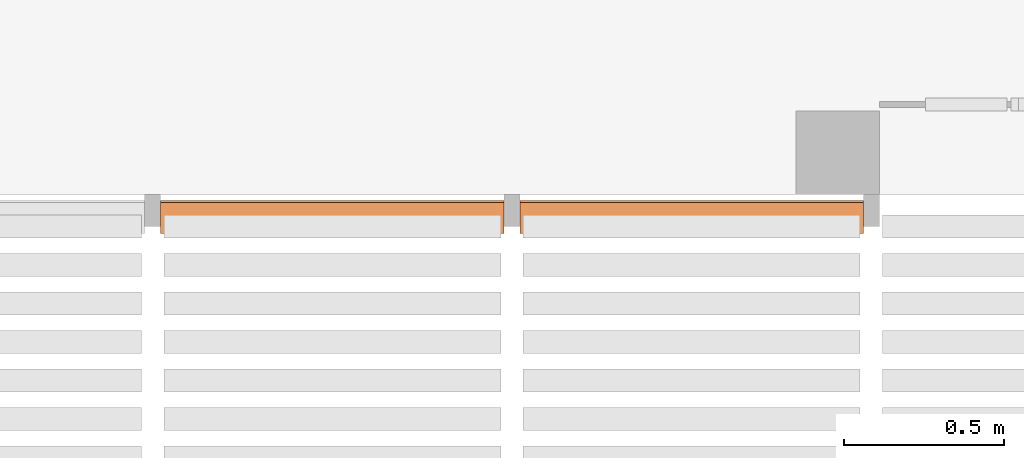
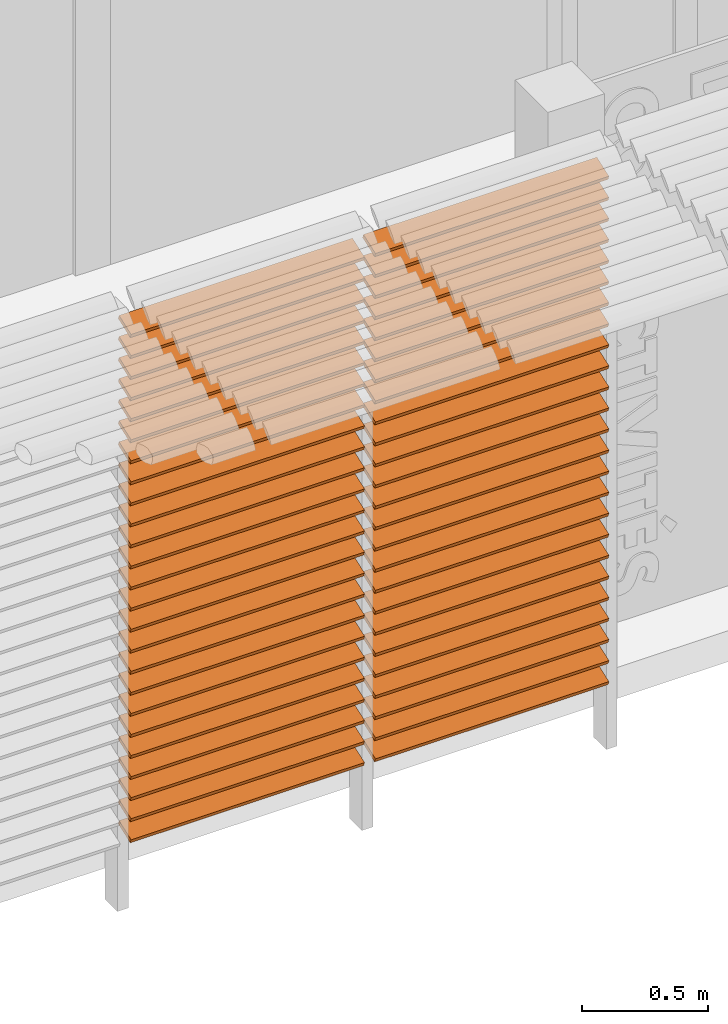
# One storey, part 57 of 64: 2 proxies.
"""IFC2X3 building model written with IfcOpenShell, lengths in metres."""

from ifc_helpers import new_model, entity, si_unit, converted_unit, derived_unit, direction, frame, frame_2d, origin, place, context, subcontext, project, spatial, rectangle, extrude, source, transform, mapped, material, type_object, type_shapes, element, save


model = new_model("IFC2X3")

# Units and contexts
model_context = context("Model", 3, precision=1e-05, world=origin(), true_north=direction((6.123031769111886e-17, 1.0)))
body_context = subcontext(model_context, "Body", "Model", "MODEL_VIEW")
ifc_project = project(units=[si_unit("LENGTHUNIT", "METRE"), si_unit("AREAUNIT", "SQUARE_METRE"), si_unit("VOLUMEUNIT", "CUBIC_METRE"), converted_unit("PLANEANGLEUNIT", "DEGREE", entity("IfcRatioMeasure", 0.017453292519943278), si_unit("PLANEANGLEUNIT", "RADIAN"), dimensions=[0, 0, 0, 0, 0, 0, 0]), si_unit("MASSUNIT", "GRAM", prefix="KILO"), derived_unit("MASSDENSITYUNIT", [(si_unit("MASSUNIT", "GRAM", prefix="KILO"), 1), (si_unit("LENGTHUNIT", "METRE"), -3)]), derived_unit("MOMENTOFINERTIAUNIT", [(si_unit("LENGTHUNIT", "METRE"), 4)]), si_unit("TIMEUNIT", "SECOND"), si_unit("FREQUENCYUNIT", "HERTZ"), si_unit("THERMODYNAMICTEMPERATUREUNIT", "DEGREE_CELSIUS"), derived_unit("THERMALTRANSMITTANCEUNIT", [(si_unit("MASSUNIT", "GRAM", prefix="KILO"), 1), (si_unit("THERMODYNAMICTEMPERATUREUNIT", "KELVIN"), -1), (si_unit("TIMEUNIT", "SECOND"), -3)]), derived_unit("THERMALCONDUCTANCEUNIT", [(si_unit("MASSUNIT", "GRAM", prefix="KILO"), 1), (si_unit("LENGTHUNIT", "METRE"), 1), (si_unit("THERMODYNAMICTEMPERATUREUNIT", "KELVIN"), -1), (si_unit("TIMEUNIT", "SECOND"), -3)]), derived_unit("VOLUMETRICFLOWRATEUNIT", [(si_unit("LENGTHUNIT", "METRE"), 3), (si_unit("TIMEUNIT", "SECOND"), -1)]), derived_unit("MASSFLOWRATEUNIT", [(si_unit("MASSUNIT", "GRAM", prefix="KILO"), 1), (si_unit("TIMEUNIT", "SECOND"), -1)]), derived_unit("ROTATIONALFREQUENCYUNIT", [(si_unit("TIMEUNIT", "SECOND"), -1)]), si_unit("ELECTRICCURRENTUNIT", "AMPERE"), si_unit("ELECTRICVOLTAGEUNIT", "VOLT"), si_unit("POWERUNIT", "WATT"), si_unit("FORCEUNIT", "NEWTON", prefix="KILO"), si_unit("ILLUMINANCEUNIT", "LUX"), si_unit("LUMINOUSFLUXUNIT", "LUMEN"), si_unit("LUMINOUSINTENSITYUNIT", "CANDELA"), derived_unit("USERDEFINED", [(si_unit("MASSUNIT", "GRAM", prefix="KILO"), -1), (si_unit("LENGTHUNIT", "METRE"), -2), (si_unit("TIMEUNIT", "SECOND"), 3), (si_unit("LUMINOUSFLUXUNIT", "LUMEN"), 1)]), derived_unit("USERDEFINED", [(si_unit("MASSUNIT", "GRAM", prefix="KILO"), 1), (si_unit("LENGTHUNIT", "METRE"), 3), (si_unit("TIMEUNIT", "SECOND"), -3), (si_unit("ELECTRICCURRENTUNIT", "AMPERE"), -2)]), derived_unit("USERDEFINED", [(si_unit("LENGTHUNIT", "METRE"), 2), (si_unit("TIMEUNIT", "SECOND"), -2)]), derived_unit("SOUNDPOWERUNIT", [(si_unit("MASSUNIT", "GRAM", prefix="KILO"), 1), (si_unit("LENGTHUNIT", "METRE"), 2), (si_unit("TIMEUNIT", "SECOND"), -3)]), derived_unit("SOUNDPRESSUREUNIT", [(si_unit("MASSUNIT", "GRAM", prefix="KILO"), 1), (si_unit("LENGTHUNIT", "METRE"), -1), (si_unit("TIMEUNIT", "SECOND"), -2)]), derived_unit("LINEARVELOCITYUNIT", [(si_unit("LENGTHUNIT", "METRE"), 1), (si_unit("TIMEUNIT", "SECOND"), -1)]), si_unit("PRESSUREUNIT", "PASCAL"), derived_unit("USERDEFINED", [(si_unit("LENGTHUNIT", "METRE"), -2), (si_unit("MASSUNIT", "GRAM", prefix="KILO"), 1), (si_unit("TIMEUNIT", "SECOND"), -2)]), derived_unit("LINEARFORCEUNIT", [(si_unit("MASSUNIT", "GRAM", prefix="KILO"), 1), (si_unit("LENGTHUNIT", "METRE"), 1), (si_unit("TIMEUNIT", "SECOND"), -2), (si_unit("LENGTHUNIT", "METRE"), -1)]), derived_unit("PLANARFORCEUNIT", [(si_unit("MASSUNIT", "GRAM", prefix="KILO"), 1), (si_unit("LENGTHUNIT", "METRE"), 1), (si_unit("TIMEUNIT", "SECOND"), -2), (si_unit("LENGTHUNIT", "METRE"), -2)]), derived_unit("SPECIFICHEATCAPACITYUNIT", [(si_unit("LENGTHUNIT", "METRE"), 2), (si_unit("TIMEUNIT", "SECOND"), -2), (si_unit("THERMODYNAMICTEMPERATUREUNIT", "KELVIN"), -1)]), derived_unit("VAPORPERMEABILITYUNIT", [(si_unit("TIMEUNIT", "SECOND"), 1), (si_unit("LENGTHUNIT", "METRE"), -1)]), derived_unit("DYNAMICVISCOSITYUNIT", [(si_unit("MASSUNIT", "GRAM", prefix="KILO"), 1), (si_unit("LENGTHUNIT", "METRE"), -1), (si_unit("TIMEUNIT", "SECOND"), -1)]), derived_unit("THERMALEXPANSIONCOEFFICIENTUNIT", [(si_unit("THERMODYNAMICTEMPERATUREUNIT", "KELVIN"), -1)])], contexts=[model_context])

# Site, building, storey
site_placement = place(None, origin())
site = spatial("IfcSite", under=ifc_project, at=site_placement, Name="Default", CompositionType="ELEMENT")
building_placement = place(site_placement, origin())
building = spatial("IfcBuilding", under=site, at=building_placement, CompositionType="ELEMENT")
storey_placement = place(building_placement, origin())
storey = spatial("IfcBuildingStorey", under=building, at=storey_placement, Name="REZ-DE-CHAUSSÉE", CompositionType="ELEMENT", Elevation=0.0)

# Proxies
ifc_material = material(Name="Bois - Chêne clair")
building_element_proxy_type_1 = type_object("IfcBuildingElementProxyType", Name="Symb-0003", PredefinedType="NOTDEFINED", material=ifc_material)
shared_shape_1 = source(origin(), body_context, "Body", "SweptSolid", [
    extrude(rectangle(XDim=0.020000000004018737, YDim=0.10200000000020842, at=frame_2d((-2.5326962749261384e-16, 9.280770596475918e-17), x_axis=(0.0, 1.0))), frame((118.73074673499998, 4.09720948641, 2.498999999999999), z_axis=(1.0, 0.0, 0.0), x_axis=(0.0, 0.9396926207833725, 0.34202014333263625)), (0.0, 0.0, 1.0), 1.0699999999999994),
    extrude(rectangle(XDim=0.02000000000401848, YDim=0.10200000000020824, at=frame_2d((-2.6020852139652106e-16, 9.194034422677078e-17), x_axis=(0.0, 1.0))), frame((118.73074673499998, 4.09720948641, 2.397), z_axis=(1.0, 0.0, 0.0), x_axis=(0.0, 0.9396926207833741, 0.3420201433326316)), (0.0, 0.0, 1.0), 1.0699999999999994),
    extrude(rectangle(XDim=0.020000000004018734, YDim=0.10200000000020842, at=frame_2d((-3.0184188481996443e-16, -3.382710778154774e-17), x_axis=(0.0, 1.0))), frame((118.73074673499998, 4.09720948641, 2.295), z_axis=(1.0, 0.0, 0.0), x_axis=(0.0, 0.9396926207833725, 0.34202014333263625)), (0.0, 0.0, 1.0), 1.0699999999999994),
    extrude(rectangle(XDim=0.020000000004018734, YDim=0.10200000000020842, at=frame_2d((-3.0184188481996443e-16, -3.382710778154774e-17), x_axis=(0.0, 1.0))), frame((118.73074673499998, 4.09720948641, 2.193), z_axis=(1.0, 0.0, 0.0), x_axis=(0.0, 0.9396926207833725, 0.34202014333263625)), (0.0, 0.0, 1.0), 1.0699999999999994),
    extrude(rectangle(XDim=0.020000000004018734, YDim=0.10200000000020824, at=frame_2d((-2.1163626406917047e-16, 2.211772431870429e-16), x_axis=(0.0, 1.0))), frame((118.73074673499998, 4.09720948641, 2.0909999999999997), z_axis=(1.0, 0.0, 0.0), x_axis=(0.0, 0.9396926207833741, 0.3420201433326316)), (0.0, 0.0, 1.0), 1.0699999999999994),
    extrude(rectangle(XDim=0.020000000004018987, YDim=0.10200000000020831, at=frame_2d((-3.0184188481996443e-16, -3.382710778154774e-17), x_axis=(0.0, 1.0))), frame((118.73074673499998, 4.09720948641, 1.9889999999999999), z_axis=(1.0, 0.0, 0.0), x_axis=(0.0, 0.9396926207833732, 0.3420201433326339)), (0.0, 0.0, 1.0), 1.0699999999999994),
    extrude(rectangle(XDim=0.020000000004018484, YDim=0.10200000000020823, at=frame_2d((-1.6306400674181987e-16, 3.478120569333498e-16), x_axis=(0.0, 1.0))), frame((118.73074673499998, 4.09720948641, 1.8869999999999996), z_axis=(1.0, 0.0, 0.0), x_axis=(0.0, 0.9396926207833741, 0.3420201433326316)), (0.0, 0.0, 1.0), 1.0699999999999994),
    extrude(rectangle(XDim=0.020000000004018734, YDim=0.10200000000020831, at=frame_2d((-2.5673907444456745e-16, 9.280770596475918e-17), x_axis=(0.0, 1.0))), frame((118.73074673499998, 4.09720948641, 1.7850000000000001), z_axis=(1.0, 0.0, 0.0), x_axis=(0.0, 0.9396926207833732, 0.3420201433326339)), (0.0, 0.0, 1.0), 1.0699999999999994),
    extrude(rectangle(XDim=0.020000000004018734, YDim=0.10200000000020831, at=frame_2d((-1.5959455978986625e-16, 3.469446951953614e-16), x_axis=(0.0, 1.0))), frame((118.73074673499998, 4.09720948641, 1.6829999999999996), z_axis=(1.0, 0.0, 0.0), x_axis=(0.0, 0.9396926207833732, 0.3420201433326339)), (0.0, 0.0, 1.0), 1.0699999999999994),
    extrude(rectangle(XDim=0.02000000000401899, YDim=0.10200000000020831, at=frame_2d((-2.0816681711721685e-16, 2.203098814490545e-16), x_axis=(0.0, 1.0))), frame((118.73074673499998, 4.09720948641, 1.5809999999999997), z_axis=(1.0, 0.0, 0.0), x_axis=(0.0, 0.9396926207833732, 0.3420201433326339)), (0.0, 0.0, 1.0), 1.0699999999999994),
    extrude(rectangle(XDim=0.020000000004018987, YDim=0.10200000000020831, at=frame_2d((-3.0184188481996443e-16, -3.382710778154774e-17), x_axis=(0.0, 1.0))), frame((118.73074673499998, 4.09720948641, 1.479), z_axis=(1.0, 0.0, 0.0), x_axis=(0.0, 0.9396926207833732, 0.3420201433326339)), (0.0, 0.0, 1.0), 1.0699999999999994),
    extrude(rectangle(XDim=0.02000000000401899, YDim=0.10200000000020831, at=frame_2d((-2.5673907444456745e-16, 9.280770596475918e-17), x_axis=(0.0, 1.0))), frame((118.73074673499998, 4.09720948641, 1.3769999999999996), z_axis=(1.0, 0.0, 0.0), x_axis=(0.0, 0.9396926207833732, 0.3420201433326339)), (0.0, 0.0, 1.0), 1.0699999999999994),
    extrude(rectangle(XDim=0.02000000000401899, YDim=0.10200000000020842, at=frame_2d((-2.5326962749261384e-16, 9.280770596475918e-17), x_axis=(0.0, 1.0))), frame((118.73074673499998, 4.09720948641, 1.275), z_axis=(1.0, 0.0, 0.0), x_axis=(0.0, 0.9396926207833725, 0.34202014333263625)), (0.0, 0.0, 1.0), 1.0699999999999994),
    extrude(rectangle(XDim=0.02000000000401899, YDim=0.10200000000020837, at=frame_2d((-2.740863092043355e-16, 2.862293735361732e-17), x_axis=(0.0, 1.0))), frame((118.73074673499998, 4.09720948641, 1.1729999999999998), z_axis=(1.0, 0.0, 0.0), x_axis=(0.0, 0.9396926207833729, 0.3420201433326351)), (0.0, 0.0, 1.0), 1.0699999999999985),
    extrude(rectangle(XDim=0.020000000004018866, YDim=0.10200000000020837, at=frame_2d((-2.5326962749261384e-16, 9.280770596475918e-17), x_axis=(0.0, 1.0))), frame((118.73074673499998, 4.09720948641, 1.071), z_axis=(1.0, 0.0, 0.0), x_axis=(0.0, 0.9396926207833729, 0.3420201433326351)), (0.0, 0.0, 1.0), 1.0699999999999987),
    extrude(rectangle(XDim=0.01999999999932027, YDim=0.10199999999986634, at=frame_2d((-2.255140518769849e-16, 1.5612511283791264e-16), x_axis=(0.0, 1.0))), frame((118.73074673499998, 4.09720948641, 0.9689999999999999), z_axis=(1.0, 0.0, 0.0), x_axis=(0.0, 0.9396926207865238, 0.34202014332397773)), (0.0, 0.0, 1.0), 1.0699999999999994),
    extrude(rectangle(XDim=0.019999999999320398, YDim=0.10199999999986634, at=frame_2d((-2.255140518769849e-16, 1.5612511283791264e-16), x_axis=(0.0, 1.0))), frame((118.73074673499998, 4.09720948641, 0.8669999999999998), z_axis=(1.0, 0.0, 0.0), x_axis=(0.0, 0.9396926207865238, 0.34202014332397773)), (0.0, 0.0, 1.0), 1.0699999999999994),
    extrude(rectangle(XDim=0.019999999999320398, YDim=0.10199999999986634, at=frame_2d((-2.8102520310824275e-16, 2.949029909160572e-17), x_axis=(0.0, 1.0))), frame((118.73074673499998, 4.09720948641, 0.765), z_axis=(1.0, 0.0, 0.0), x_axis=(0.0, 0.9396926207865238, 0.34202014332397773)), (0.0, 0.0, 1.0), 1.0699999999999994),
    extrude(rectangle(XDim=0.019999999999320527, YDim=0.10199999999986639, at=frame_2d((-2.5326962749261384e-16, 9.194034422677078e-17), x_axis=(0.0, 1.0))), frame((118.73074673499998, 4.09720948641, 0.6629999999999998), z_axis=(1.0, 0.0, 0.0), x_axis=(0.0, 0.9396926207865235, 0.34202014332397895)), (0.0, 0.0, 1.0), 1.0699999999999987),
    extrude(rectangle(XDim=0.019999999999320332, YDim=0.10199999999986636, at=frame_2d((-2.5326962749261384e-16, 9.280770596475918e-17), x_axis=(0.0, 1.0))), frame((118.73074673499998, 4.09720948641, 0.5609999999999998), z_axis=(1.0, 0.0, 0.0), x_axis=(0.0, 0.9396926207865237, 0.34202014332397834)), (0.0, 0.0, 1.0), 1.0699999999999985),
    extrude(rectangle(XDim=0.01999999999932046, YDim=0.10199999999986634, at=frame_2d((-2.5326962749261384e-16, 9.367506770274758e-17), x_axis=(0.0, 1.0))), frame((118.73074673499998, 4.09720948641, 0.4589999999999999), z_axis=(1.0, 0.0, 0.0), x_axis=(0.0, 0.9396926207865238, 0.34202014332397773)), (0.0, 0.0, 1.0), 1.0699999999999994),
    extrude(rectangle(XDim=0.01999999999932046, YDim=0.10199999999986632, at=frame_2d((-2.42861286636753e-16, 1.240327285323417e-16), x_axis=(0.0, 1.0))), frame((118.73074673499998, 4.09720948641, 0.3569999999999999), z_axis=(1.0, 0.0, 0.0), x_axis=(0.0, 0.939692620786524, 0.3420201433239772)), (0.0, 0.0, 1.0), 1.0699999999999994),
    extrude(rectangle(XDim=0.019999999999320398, YDim=0.10199999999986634, at=frame_2d((-2.636779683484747e-16, 7.546047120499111e-17), x_axis=(0.0, 1.0))), frame((118.73074673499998, 4.09720948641, 0.2549999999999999), z_axis=(1.0, 0.0, 0.0), x_axis=(0.0, 0.9396926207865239, 0.34202014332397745)), (0.0, 0.0, 1.0), 1.0699999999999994),
    extrude(rectangle(XDim=0.019999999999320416, YDim=0.10199999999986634, at=frame_2d((-2.636779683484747e-16, 7.546047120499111e-17), x_axis=(0.0, 1.0))), frame((118.73074673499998, 4.09720948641, 0.1529999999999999), z_axis=(1.0, 0.0, 0.0), x_axis=(0.0, 0.9396926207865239, 0.34202014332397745)), (0.0, 0.0, 1.0), 1.0699999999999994),
    extrude(rectangle(XDim=0.01999999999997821, YDim=0.10199999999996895, at=frame_2d((-2.5326962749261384e-16, 9.80118763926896e-17), x_axis=(0.0, 1.0))), frame((118.73074673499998, 4.09720948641, 0.050999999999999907), z_axis=(1.0, 0.0, 0.0), x_axis=(0.0, 0.9396926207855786, 0.34202014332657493)), (0.0, 0.0, 1.0), 1.0699999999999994),
])
type_shapes(building_element_proxy_type_1, [shared_shape_1])
proxy_1_placement = place(storey_placement, origin())
element("IfcBuildingElementProxy", 1, at=proxy_1_placement, inside=storey, type_object=building_element_proxy_type_1, material=ifc_material, Name="Symb-0003 62445:Symb-0003 62445", ObjectType="Symb-0003 62445:Symb-0003 62445", context=body_context, shape_type="MappedRepresentation", body=[
    mapped(shared_shape_1, transform((0.0, 0.0, 0.0), scale=1.0)),
])
building_element_proxy_type_2 = type_object("IfcBuildingElementProxyType", Name="Symb-0003", PredefinedType="NOTDEFINED", material=ifc_material)
shared_shape_2 = source(origin(), body_context, "Body", "SweptSolid", [
    extrude(rectangle(XDim=0.020000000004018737, YDim=0.10200000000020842, at=frame_2d((-2.5326962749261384e-16, 9.280770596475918e-17), x_axis=(0.0, 1.0))), frame((119.85074673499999, 4.09720948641, 2.498999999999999), z_axis=(1.0, 0.0, 0.0), x_axis=(0.0, 0.9396926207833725, 0.34202014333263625)), (0.0, 0.0, 1.0), 1.0699999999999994),
    extrude(rectangle(XDim=0.02000000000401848, YDim=0.10200000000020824, at=frame_2d((-2.6020852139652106e-16, 9.194034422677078e-17), x_axis=(0.0, 1.0))), frame((119.85074673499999, 4.09720948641, 2.397), z_axis=(1.0, 0.0, 0.0), x_axis=(0.0, 0.9396926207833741, 0.3420201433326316)), (0.0, 0.0, 1.0), 1.0699999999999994),
    extrude(rectangle(XDim=0.020000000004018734, YDim=0.10200000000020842, at=frame_2d((-3.0184188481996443e-16, -3.382710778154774e-17), x_axis=(0.0, 1.0))), frame((119.85074673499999, 4.09720948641, 2.295), z_axis=(1.0, 0.0, 0.0), x_axis=(0.0, 0.9396926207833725, 0.34202014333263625)), (0.0, 0.0, 1.0), 1.0699999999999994),
    extrude(rectangle(XDim=0.020000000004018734, YDim=0.10200000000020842, at=frame_2d((-3.0184188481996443e-16, -3.382710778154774e-17), x_axis=(0.0, 1.0))), frame((119.85074673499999, 4.09720948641, 2.193), z_axis=(1.0, 0.0, 0.0), x_axis=(0.0, 0.9396926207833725, 0.34202014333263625)), (0.0, 0.0, 1.0), 1.0699999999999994),
    extrude(rectangle(XDim=0.020000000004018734, YDim=0.10200000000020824, at=frame_2d((-2.1163626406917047e-16, 2.211772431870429e-16), x_axis=(0.0, 1.0))), frame((119.85074673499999, 4.09720948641, 2.0909999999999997), z_axis=(1.0, 0.0, 0.0), x_axis=(0.0, 0.9396926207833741, 0.3420201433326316)), (0.0, 0.0, 1.0), 1.0699999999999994),
    extrude(rectangle(XDim=0.020000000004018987, YDim=0.10200000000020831, at=frame_2d((-3.0184188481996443e-16, -3.382710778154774e-17), x_axis=(0.0, 1.0))), frame((119.85074673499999, 4.09720948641, 1.9889999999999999), z_axis=(1.0, 0.0, 0.0), x_axis=(0.0, 0.9396926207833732, 0.3420201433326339)), (0.0, 0.0, 1.0), 1.0699999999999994),
    extrude(rectangle(XDim=0.020000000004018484, YDim=0.10200000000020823, at=frame_2d((-1.6306400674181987e-16, 3.478120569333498e-16), x_axis=(0.0, 1.0))), frame((119.85074673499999, 4.09720948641, 1.8869999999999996), z_axis=(1.0, 0.0, 0.0), x_axis=(0.0, 0.9396926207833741, 0.3420201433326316)), (0.0, 0.0, 1.0), 1.0699999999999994),
    extrude(rectangle(XDim=0.020000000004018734, YDim=0.10200000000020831, at=frame_2d((-2.5673907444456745e-16, 9.280770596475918e-17), x_axis=(0.0, 1.0))), frame((119.85074673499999, 4.09720948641, 1.7850000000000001), z_axis=(1.0, 0.0, 0.0), x_axis=(0.0, 0.9396926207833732, 0.3420201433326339)), (0.0, 0.0, 1.0), 1.0699999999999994),
    extrude(rectangle(XDim=0.020000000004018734, YDim=0.10200000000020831, at=frame_2d((-1.5959455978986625e-16, 3.469446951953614e-16), x_axis=(0.0, 1.0))), frame((119.85074673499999, 4.09720948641, 1.6829999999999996), z_axis=(1.0, 0.0, 0.0), x_axis=(0.0, 0.9396926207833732, 0.3420201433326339)), (0.0, 0.0, 1.0), 1.0699999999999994),
    extrude(rectangle(XDim=0.02000000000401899, YDim=0.10200000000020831, at=frame_2d((-2.0816681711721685e-16, 2.203098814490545e-16), x_axis=(0.0, 1.0))), frame((119.85074673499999, 4.09720948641, 1.5809999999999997), z_axis=(1.0, 0.0, 0.0), x_axis=(0.0, 0.9396926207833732, 0.3420201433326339)), (0.0, 0.0, 1.0), 1.0699999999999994),
    extrude(rectangle(XDim=0.020000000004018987, YDim=0.10200000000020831, at=frame_2d((-3.0184188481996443e-16, -3.382710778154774e-17), x_axis=(0.0, 1.0))), frame((119.85074673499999, 4.09720948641, 1.479), z_axis=(1.0, 0.0, 0.0), x_axis=(0.0, 0.9396926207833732, 0.3420201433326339)), (0.0, 0.0, 1.0), 1.0699999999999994),
    extrude(rectangle(XDim=0.02000000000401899, YDim=0.10200000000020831, at=frame_2d((-2.5673907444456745e-16, 9.280770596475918e-17), x_axis=(0.0, 1.0))), frame((119.85074673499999, 4.09720948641, 1.3769999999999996), z_axis=(1.0, 0.0, 0.0), x_axis=(0.0, 0.9396926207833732, 0.3420201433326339)), (0.0, 0.0, 1.0), 1.0699999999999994),
    extrude(rectangle(XDim=0.02000000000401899, YDim=0.10200000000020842, at=frame_2d((-2.5326962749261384e-16, 9.280770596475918e-17), x_axis=(0.0, 1.0))), frame((119.85074673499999, 4.09720948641, 1.275), z_axis=(1.0, 0.0, 0.0), x_axis=(0.0, 0.9396926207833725, 0.34202014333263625)), (0.0, 0.0, 1.0), 1.0699999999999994),
    extrude(rectangle(XDim=0.02000000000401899, YDim=0.10200000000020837, at=frame_2d((-2.740863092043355e-16, 2.862293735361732e-17), x_axis=(0.0, 1.0))), frame((119.85074673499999, 4.09720948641, 1.1729999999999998), z_axis=(1.0, 0.0, 0.0), x_axis=(0.0, 0.9396926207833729, 0.3420201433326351)), (0.0, 0.0, 1.0), 1.0699999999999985),
    extrude(rectangle(XDim=0.020000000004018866, YDim=0.10200000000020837, at=frame_2d((-2.5326962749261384e-16, 9.280770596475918e-17), x_axis=(0.0, 1.0))), frame((119.85074673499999, 4.09720948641, 1.071), z_axis=(1.0, 0.0, 0.0), x_axis=(0.0, 0.9396926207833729, 0.3420201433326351)), (0.0, 0.0, 1.0), 1.0699999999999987),
    extrude(rectangle(XDim=0.01999999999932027, YDim=0.10199999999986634, at=frame_2d((-2.255140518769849e-16, 1.5612511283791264e-16), x_axis=(0.0, 1.0))), frame((119.85074673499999, 4.09720948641, 0.9689999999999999), z_axis=(1.0, 0.0, 0.0), x_axis=(0.0, 0.9396926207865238, 0.34202014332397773)), (0.0, 0.0, 1.0), 1.0699999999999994),
    extrude(rectangle(XDim=0.019999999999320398, YDim=0.10199999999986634, at=frame_2d((-2.255140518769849e-16, 1.5612511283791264e-16), x_axis=(0.0, 1.0))), frame((119.85074673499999, 4.09720948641, 0.8669999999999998), z_axis=(1.0, 0.0, 0.0), x_axis=(0.0, 0.9396926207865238, 0.34202014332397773)), (0.0, 0.0, 1.0), 1.0699999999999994),
    extrude(rectangle(XDim=0.019999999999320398, YDim=0.10199999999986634, at=frame_2d((-2.8102520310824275e-16, 2.949029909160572e-17), x_axis=(0.0, 1.0))), frame((119.85074673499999, 4.09720948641, 0.765), z_axis=(1.0, 0.0, 0.0), x_axis=(0.0, 0.9396926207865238, 0.34202014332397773)), (0.0, 0.0, 1.0), 1.0699999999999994),
    extrude(rectangle(XDim=0.019999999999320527, YDim=0.10199999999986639, at=frame_2d((-2.5326962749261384e-16, 9.194034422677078e-17), x_axis=(0.0, 1.0))), frame((119.85074673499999, 4.09720948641, 0.6629999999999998), z_axis=(1.0, 0.0, 0.0), x_axis=(0.0, 0.9396926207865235, 0.34202014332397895)), (0.0, 0.0, 1.0), 1.0699999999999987),
    extrude(rectangle(XDim=0.019999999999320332, YDim=0.10199999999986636, at=frame_2d((-2.5326962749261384e-16, 9.280770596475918e-17), x_axis=(0.0, 1.0))), frame((119.85074673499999, 4.09720948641, 0.5609999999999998), z_axis=(1.0, 0.0, 0.0), x_axis=(0.0, 0.9396926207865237, 0.34202014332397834)), (0.0, 0.0, 1.0), 1.0699999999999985),
    extrude(rectangle(XDim=0.01999999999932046, YDim=0.10199999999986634, at=frame_2d((-2.5326962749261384e-16, 9.367506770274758e-17), x_axis=(0.0, 1.0))), frame((119.85074673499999, 4.09720948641, 0.4589999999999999), z_axis=(1.0, 0.0, 0.0), x_axis=(0.0, 0.9396926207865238, 0.34202014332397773)), (0.0, 0.0, 1.0), 1.0699999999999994),
    extrude(rectangle(XDim=0.01999999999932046, YDim=0.10199999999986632, at=frame_2d((-2.42861286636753e-16, 1.240327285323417e-16), x_axis=(0.0, 1.0))), frame((119.85074673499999, 4.09720948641, 0.3569999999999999), z_axis=(1.0, 0.0, 0.0), x_axis=(0.0, 0.939692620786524, 0.3420201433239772)), (0.0, 0.0, 1.0), 1.0699999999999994),
    extrude(rectangle(XDim=0.019999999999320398, YDim=0.10199999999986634, at=frame_2d((-2.636779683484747e-16, 7.546047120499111e-17), x_axis=(0.0, 1.0))), frame((119.85074673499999, 4.09720948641, 0.2549999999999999), z_axis=(1.0, 0.0, 0.0), x_axis=(0.0, 0.9396926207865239, 0.34202014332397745)), (0.0, 0.0, 1.0), 1.0699999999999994),
    extrude(rectangle(XDim=0.019999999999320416, YDim=0.10199999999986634, at=frame_2d((-2.636779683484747e-16, 7.546047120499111e-17), x_axis=(0.0, 1.0))), frame((119.85074673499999, 4.09720948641, 0.1529999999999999), z_axis=(1.0, 0.0, 0.0), x_axis=(0.0, 0.9396926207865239, 0.34202014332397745)), (0.0, 0.0, 1.0), 1.0699999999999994),
    extrude(rectangle(XDim=0.01999999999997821, YDim=0.10199999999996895, at=frame_2d((-2.5326962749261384e-16, 9.80118763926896e-17), x_axis=(0.0, 1.0))), frame((119.85074673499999, 4.09720948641, 0.050999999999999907), z_axis=(1.0, 0.0, 0.0), x_axis=(0.0, 0.9396926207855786, 0.34202014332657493)), (0.0, 0.0, 1.0), 1.0699999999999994),
])
type_shapes(building_element_proxy_type_2, [shared_shape_2])
proxy_2_placement = place(storey_placement, origin())
element("IfcBuildingElementProxy", 2, at=proxy_2_placement, inside=storey, type_object=building_element_proxy_type_2, material=ifc_material, Name="Symb-0003 63828:Symb-0003 63828", ObjectType="Symb-0003 63828:Symb-0003 63828", context=body_context, shape_type="MappedRepresentation", body=[
    mapped(shared_shape_2, transform((0.0, 0.0, 0.0), scale=1.0)),
])

save(model, "model.ifc")
